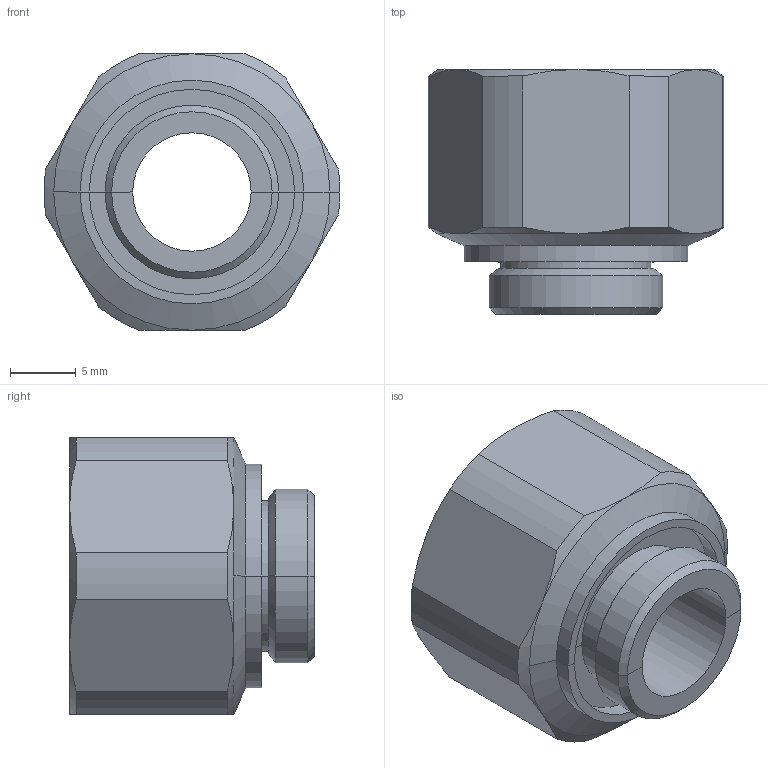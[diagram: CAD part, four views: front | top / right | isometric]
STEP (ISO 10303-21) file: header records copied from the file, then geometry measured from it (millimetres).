
FILE_DESCRIPTION(/* description */ (''),/* implementation_level */ '2;1');
FILE_NAME(/* name */ 'ADT-G14M-G38F',/* time_stamp */ '2025-11-25T18:00:01+09:00',/* author */ (''),/* organization */ (''),/* preprocessor_version */ 'ST-DEVELOPER v19.2',/* originating_system */ 'Rhino 8.21',/* authorisation */ '');
FILE_SCHEMA (('CONFIG_CONTROL_DESIGN'));
Length unit declared in the file: millimetre
Products named in the file (1): Document
Bounding box: 22.48 x 18.6 x 21 mm (x, y, z)
Volume: 2881.7 mm3; surface area: 2655.5 mm2
Topology: 1 solids, 1 shells, 61 faces, 135 edges, 75 vertices
Faces by surface type: bspline 24, cylinder 20, plane 17
Entity records: 2164 total; most frequent: CARTESIAN_POINT 926, ORIENTED_EDGE 270, DIRECTION 163, EDGE_CURVE 135, AXIS2_PLACEMENT_3D 100, VERTEX_POINT 75, B_SPLINE_CURVE_WITH_KNOTS 65, EDGE_LOOP 62
